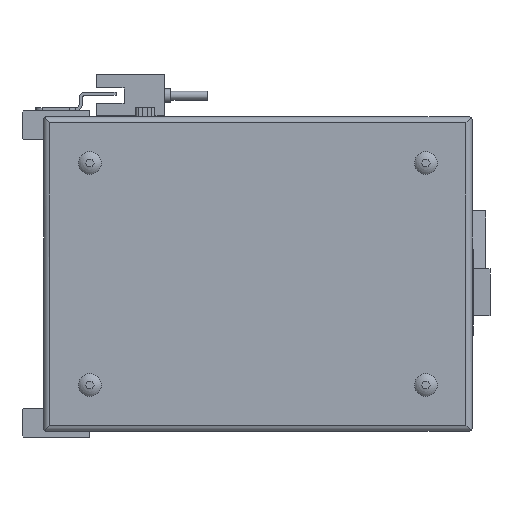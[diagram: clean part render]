
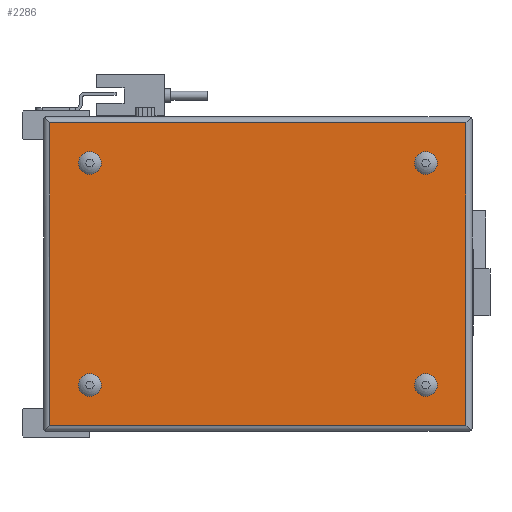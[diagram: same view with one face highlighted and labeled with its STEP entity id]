
A CAD part, left-side view. The second image highlights one B-rep face of the part: STEP entity #2286.
In plain terms, the highlighted planar face has unit normal (-1, 0, 0).
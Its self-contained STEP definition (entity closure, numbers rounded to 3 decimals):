
#2286 = ADVANCED_FACE( '', ( #4647, #4648, #4649, #4650, #4651 ), #4652, .F. );
#4647 = FACE_BOUND( '', #6970, .T. );
#4648 = FACE_BOUND( '', #6971, .T. );
#4649 = FACE_BOUND( '', #6972, .T. );
#4650 = FACE_BOUND( '', #6973, .T. );
#4651 = FACE_OUTER_BOUND( '', #6974, .T. );
#4652 = PLANE( '', #6975 );
#6970 = EDGE_LOOP( '', ( #13351 ) );
#6971 = EDGE_LOOP( '', ( #13352 ) );
#6972 = EDGE_LOOP( '', ( #13353 ) );
#6973 = EDGE_LOOP( '', ( #13354 ) );
#6974 = EDGE_LOOP( '', ( #13355, #13356, #13357, #13358 ) );
#6975 = AXIS2_PLACEMENT_3D( '', #13359, #13360, #13361 );
#13351 = ORIENTED_EDGE( '', *, *, #15879, .F. );
#13352 = ORIENTED_EDGE( '', *, *, #15556, .F. );
#13353 = ORIENTED_EDGE( '', *, *, #15774, .F. );
#13354 = ORIENTED_EDGE( '', *, *, #15657, .F. );
#13355 = ORIENTED_EDGE( '', *, *, #15016, .T. );
#13356 = ORIENTED_EDGE( '', *, *, #15435, .F. );
#13357 = ORIENTED_EDGE( '', *, *, #13867, .F. );
#13358 = ORIENTED_EDGE( '', *, *, #14429, .T. );
#13359 = CARTESIAN_POINT( '', ( -52., -75., 50. ) );
#13360 = DIRECTION( '', ( 1., 0., 0. ) );
#13361 = DIRECTION( '', ( 0., 0., -1. ) );
#13867 = EDGE_CURVE( '', #16718, #16719, #16720, .F. );
#14429 = EDGE_CURVE( '', #16718, #17645, #17647, .T. );
#15016 = EDGE_CURVE( '', #17645, #18548, #18550, .F. );
#15435 = EDGE_CURVE( '', #16719, #18548, #19106, .T. );
#15556 = EDGE_CURVE( '', #19244, #19244, #19245, .F. );
#15657 = EDGE_CURVE( '', #19368, #19368, #19369, .F. );
#15774 = EDGE_CURVE( '', #19498, #19498, #19499, .F. );
#15879 = EDGE_CURVE( '', #19609, #19609, #19610, .F. );
#16718 = VERTEX_POINT( '', #20796 );
#16719 = VERTEX_POINT( '', #20797 );
#16720 = LINE( '', #20798, #20799 );
#17645 = VERTEX_POINT( '', #22109 );
#17647 = LINE( '', #22111, #22112 );
#18548 = VERTEX_POINT( '', #23525 );
#18550 = LINE( '', #23527, #23528 );
#19106 = LINE( '', #24437, #24438 );
#19244 = VERTEX_POINT( '', #24642 );
#19245 = CIRCLE( '', #24643, 3.7 );
#19368 = VERTEX_POINT( '', #24819 );
#19369 = CIRCLE( '', #24820, 3.7 );
#19498 = VERTEX_POINT( '', #25000 );
#19499 = CIRCLE( '', #25001, 3.7 );
#19609 = VERTEX_POINT( '', #25188 );
#19610 = CIRCLE( '', #25189, 3.7 );
#20796 = CARTESIAN_POINT( '', ( -52., -74., -49. ) );
#20797 = CARTESIAN_POINT( '', ( -52., 61., -49. ) );
#20798 = CARTESIAN_POINT( '', ( -52., 139., -49. ) );
#20799 = VECTOR( '', #25745, 1000. );
#22109 = CARTESIAN_POINT( '', ( -52., -74., 49. ) );
#22111 = CARTESIAN_POINT( '', ( -52., -74., -102. ) );
#22112 = VECTOR( '', #26400, 1000. );
#23525 = CARTESIAN_POINT( '', ( -52., 61., 49. ) );
#23527 = CARTESIAN_POINT( '', ( -52., 139., 49. ) );
#23528 = VECTOR( '', #27122, 1000. );
#24437 = CARTESIAN_POINT( '', ( -52., 61., -102. ) );
#24438 = VECTOR( '', #27583, 1000. );
#24642 = CARTESIAN_POINT( '', ( -52., -61., -39.7 ) );
#24643 = AXIS2_PLACEMENT_3D( '', #27670, #27671, #27672 );
#24819 = CARTESIAN_POINT( '', ( -52., 48., -39.7 ) );
#24820 = AXIS2_PLACEMENT_3D( '', #27750, #27751, #27752 );
#25000 = CARTESIAN_POINT( '', ( -52., 48., 32.3 ) );
#25001 = AXIS2_PLACEMENT_3D( '', #27819, #27820, #27821 );
#25188 = CARTESIAN_POINT( '', ( -52., -61., 32.3 ) );
#25189 = AXIS2_PLACEMENT_3D( '', #27855, #27856, #27857 );
#25745 = DIRECTION( '', ( 0., -1., 0. ) );
#26400 = DIRECTION( '', ( 0., 0., 1. ) );
#27122 = DIRECTION( '', ( 0., -1., 0. ) );
#27583 = DIRECTION( '', ( 0., 0., 1. ) );
#27670 = CARTESIAN_POINT( '', ( -52., -61., -36. ) );
#27671 = DIRECTION( '', ( 1., 0., 0. ) );
#27672 = DIRECTION( '', ( 0., 0., -1. ) );
#27750 = CARTESIAN_POINT( '', ( -52., 48., -36. ) );
#27751 = DIRECTION( '', ( 1., 0., 0. ) );
#27752 = DIRECTION( '', ( 0., 0., -1. ) );
#27819 = CARTESIAN_POINT( '', ( -52., 48., 36. ) );
#27820 = DIRECTION( '', ( 1., 0., 0. ) );
#27821 = DIRECTION( '', ( 0., 0., -1. ) );
#27855 = CARTESIAN_POINT( '', ( -52., -61., 36. ) );
#27856 = DIRECTION( '', ( 1., 0., 0. ) );
#27857 = DIRECTION( '', ( 0., 0., -1. ) );
